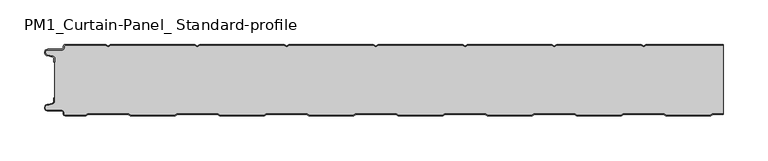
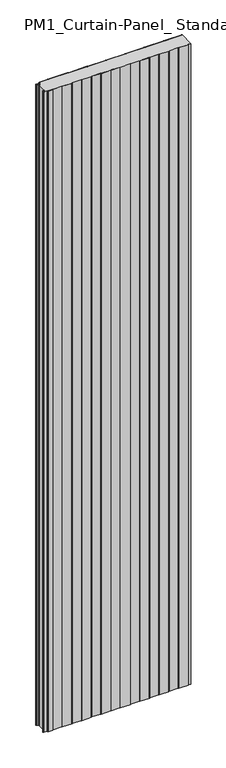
"""IFC4 building model written with IfcOpenShell, lengths in millimetres: plate geometry, PM1_Curtain-Panel_ Standard-profile : ACH_PM1_Acoustic-Sectioning-Panel_80M."""

import ifcopenshell
import ifcopenshell.guid

model = None  # the IFC model being written
_history = None  # IfcOwnerHistory: only IFC2X3 demands one
_inside = {}  # id of a spatial element -> (the spatial element, [elements in it])
_under = {}  # id of a project, library or spatial element -> (it, [spatial elements below it])
_declared = {}  # id of a project -> (the project, [libraries it declares])
_typed = {}  # id of a type object -> (the type object, [elements of that type])
_made_of = {}  # id of a material, layer set ... -> (it, [elements and type objects made of it])


def new_model(schema):
    """Start an empty IFC model of exactly this schema.

    Asked for "IFC4X3", IfcOpenShell would pick the latest addendum, in which some entities
    have other attributes; the version numbers below select the first issue.
    IFC2X3 requires an IfcOwnerHistory on every rooted entity: one is made here for all.
    """
    global model, _history
    if schema == "IFC4X3":
        model = ifcopenshell.file(schema_version=(4, 3, 0, 0))
    else:
        model = ifcopenshell.file(schema=schema)
    _inside.clear()
    _under.clear()
    _declared.clear()
    _typed.clear()
    _made_of.clear()
    _history = None
    if model.schema == "IFC2X3":
        org = make("IfcOrganization", Name="unknown")
        user = make(
            "IfcPersonAndOrganization",
            ThePerson=make("IfcPerson", FamilyName="unknown"),
            TheOrganization=org,
        )
        app = make(
            "IfcApplication",
            ApplicationDeveloper=org,
            Version="unknown",
            ApplicationFullName="unknown",
            ApplicationIdentifier="unknown",
        )
        _history = make(
            "IfcOwnerHistory",
            OwningUser=user,
            OwningApplication=app,
            ChangeAction="ADDED",
            CreationDate=0,
        )
    return model


def make(cls, **values):
    """One entity of the class cls with the attributes given. An attribute that is None is left unset."""
    return model.create_entity(
        cls, **{name: value for name, value in values.items() if value is not None}
    )


def rooted(cls, **values):
    """An entity with a GlobalId (a new one), such as an element, a storey or a relation."""
    return make(cls, GlobalId=ifcopenshell.guid.new(), OwnerHistory=_history, **values)


def si_unit(unit_type, name, prefix=None):
    """IfcSIUnit, for example si_unit("LENGTHUNIT", "METRE", prefix="MILLI")."""
    return make("IfcSIUnit", UnitType=unit_type, Prefix=prefix, Name=name)


def assignment(units):
    """IfcUnitAssignment: the units of a project."""
    return None if units is None else make("IfcUnitAssignment", Units=units)


def point(xyz):
    """IfcCartesianPoint."""
    return None if xyz is None else make("IfcCartesianPoint", Coordinates=xyz)


def direction(xyz):
    """IfcDirection."""
    return None if xyz is None else make("IfcDirection", DirectionRatios=xyz)


def frame(location, z_axis=None, x_axis=None):
    """IfcAxis2Placement3D, a coordinate frame: its origin and axes. An axis left out is left unset."""
    return make(
        "IfcAxis2Placement3D",
        Location=point(location),
        Axis=direction(z_axis),
        RefDirection=direction(x_axis),
    )


def frame_2d(location, x_axis=None):
    """IfcAxis2Placement2D, a coordinate frame in the plane: its origin and x axis."""
    return make(
        "IfcAxis2Placement2D", Location=point(location), RefDirection=direction(x_axis)
    )


def origin():
    """The frame at (0, 0, 0) with its axes left unset."""
    return frame((0.0, 0.0, 0.0))


def origin_with_axes():
    """The frame at (0, 0, 0) with the z axis (0, 0, 1) and the x axis (1, 0, 0) written out."""
    return frame((0.0, 0.0, 0.0), z_axis=(0.0, 0.0, 1.0), x_axis=(1.0, 0.0, 0.0))


def place(relative_to, where):
    """IfcLocalPlacement: puts the frame where relative to a parent placement (None: the world)."""
    return make(
        "IfcLocalPlacement", PlacementRelTo=relative_to, RelativePlacement=where
    )


def context(
    kind, dimensions, precision=None, world=None, true_north=None, identifier=None
):
    """IfcGeometricRepresentationContext, for example the 3D "Model" context."""
    return make(
        "IfcGeometricRepresentationContext",
        ContextIdentifier=identifier,
        ContextType=kind,
        CoordinateSpaceDimension=dimensions,
        Precision=precision,
        WorldCoordinateSystem=world,
        TrueNorth=true_north,
    )


def project(units=None, contexts=None):
    """IfcProject with its units and contexts."""
    return rooted(
        "IfcProject",
        Name="project",
        RepresentationContexts=contexts,
        UnitsInContext=assignment(units),
    )


def spatial(cls, under=None, at=None, **own):
    """A site, building, storey or space (cls), placed at a placement, below another one or the project."""
    s = rooted(cls, ObjectPlacement=at, **own)
    if under is not None:
        _under.setdefault(under.id(), (under, []))[1].append(s)
    return s


def polyline(points):
    """IfcPolyline through the points."""
    return make("IfcPolyline", Points=[point(p) for p in points])


def circle_curve(where, radius):
    """IfcCircle in the frame where."""
    return make("IfcCircle", Position=where, Radius=radius)


def trimmed(basis, trim1, trim2, sense, master):
    """IfcTrimmedCurve: the piece of a basis curve between two trims."""
    return make(
        "IfcTrimmedCurve",
        BasisCurve=basis,
        Trim1=trim1,
        Trim2=trim2,
        SenseAgreement=sense,
        MasterRepresentation=master,
    )


def segment(curve, same_sense, transition):
    """IfcCompositeCurveSegment."""
    return make(
        "IfcCompositeCurveSegment",
        Transition=transition,
        SameSense=same_sense,
        ParentCurve=curve,
    )


def composite_curve(segments, self_intersect=None):
    """IfcCompositeCurve: segments joined end to end."""
    return make("IfcCompositeCurve", Segments=segments, SelfIntersect=self_intersect)


def outline(outer, holes=None, kind="AREA"):
    """IfcArbitraryClosedProfileDef: a profile drawn as a closed curve; with holes, ...WithVoids."""
    if holes is None:
        return make("IfcArbitraryClosedProfileDef", ProfileType=kind, OuterCurve=outer)
    return make(
        "IfcArbitraryProfileDefWithVoids",
        ProfileType=kind,
        OuterCurve=outer,
        InnerCurves=holes,
    )


def extrude(swept, where, along, depth):
    """IfcExtrudedAreaSolid: the profile swept, set in the frame where, extruded along a direction by depth."""
    return make(
        "IfcExtrudedAreaSolid",
        SweptArea=swept,
        Position=where,
        ExtrudedDirection=direction(along),
        Depth=depth,
    )


def shape(context_of_items, identifier, shape_type, items):
    """IfcShapeRepresentation: the items that make up one representation, for example the "Body"."""
    return make(
        "IfcShapeRepresentation",
        ContextOfItems=context_of_items,
        RepresentationIdentifier=identifier,
        RepresentationType=shape_type,
        Items=items,
    )


def source(mapping_origin, context_of_items, identifier, shape_type, items):
    """IfcRepresentationMap: a shape defined once, which mapped items show again and again."""
    return make(
        "IfcRepresentationMap",
        MappingOrigin=mapping_origin,
        MappedRepresentation=shape(context_of_items, identifier, shape_type, items),
    )


def transform(
    local_origin,
    x_axis=None,
    y_axis=None,
    z_axis=None,
    scale=None,
    scale2=None,
    scale3=None,
    uniform=True,
):
    """IfcCartesianTransformationOperator3D, or its non-uniform kind. x_axis, y_axis, z_axis: its Axis1, 2, 3."""
    if uniform:
        return make(
            "IfcCartesianTransformationOperator3D",
            Axis1=direction(x_axis),
            Axis2=direction(y_axis),
            LocalOrigin=point(local_origin),
            Scale=scale,
            Axis3=direction(z_axis),
        )
    return make(
        "IfcCartesianTransformationOperator3DnonUniform",
        Axis1=direction(x_axis),
        Axis2=direction(y_axis),
        LocalOrigin=point(local_origin),
        Scale=scale,
        Axis3=direction(z_axis),
        Scale2=scale2,
        Scale3=scale3,
    )


def mapped(mapping_source, mapping_target):
    """IfcMappedItem: shows the shape of a source again, moved by a transform."""
    return make(
        "IfcMappedItem", MappingSource=mapping_source, MappingTarget=mapping_target
    )


def made_of(thing, what):
    """Note that an element or type object is made of a material, layer set ...; save() writes the relation."""
    if what is not None:
        _made_of.setdefault(what.id(), (what, []))[1].append(thing)
    return thing


def element(
    cls,
    number,
    at=None,
    inside=None,
    cuts=None,
    type_object=None,
    material=None,
    context=None,
    identifier="Body",
    shape_type=None,
    held_by="IfcProductDefinitionShape",
    body=None,
    shapes=None,
    **own,
):
    """One element of the class cls, such as IfcWall. Its Tag is "e" and its number.

    at: its placement. inside: the storey or other place that contains it. cuts: it is an
    opening in that element (IfcRelVoidsElement). A single representation is given by context,
    identifier, shape_type and body (its items); several are given by shapes. held_by: the class
    of the entity that holds the representations. save() writes the other relations.
    """
    e = rooted(cls, Tag="e%d" % number, ObjectPlacement=at, **own)
    if body is not None:
        shapes = [shape(context, identifier, shape_type, body)]
    if shapes is not None:
        e.Representation = make(held_by, Representations=shapes)
    if inside is not None:
        _inside.setdefault(inside.id(), (inside, []))[1].append(e)
    if cuts is not None:
        rooted(
            "IfcRelVoidsElement", RelatingBuildingElement=cuts, RelatedOpeningElement=e
        )
    if type_object is not None:
        _typed.setdefault(type_object.id(), (type_object, []))[1].append(e)
    return made_of(e, material)


def aggregate(whole, parts):
    """IfcRelAggregates: a whole, such as a stair, and the parts it consists of."""
    return rooted("IfcRelAggregates", RelatingObject=whole, RelatedObjects=parts)


def save(model, path):
    """Write the relations noted so far, then the file.

    IfcRelAggregates (storeys below a building ...), IfcRelContainedInSpatialStructure (elements
    in a storey), IfcRelDefinesByType, IfcRelAssociatesMaterial and IfcRelDeclares: one each for
    every whole, place, type object, material and project.
    """
    for whole, parts in _under.values():
        aggregate(whole, parts)
    for where, things in _inside.values():
        rooted(
            "IfcRelContainedInSpatialStructure",
            RelatedElements=things,
            RelatingStructure=where,
        )
    for kind, things in _typed.values():
        rooted("IfcRelDefinesByType", RelatedObjects=things, RelatingType=kind)
    for what, things in _made_of.values():
        rooted("IfcRelAssociatesMaterial", RelatedObjects=things, RelatingMaterial=what)
    for by, libraries in _declared.values():
        rooted("IfcRelDeclares", RelatingContext=by, RelatedDefinitions=libraries)
    model.write(path)


def pm1_curtain_panel_standard_profile_9475321e(model_context):
    return source(origin(), model_context, "Body", "SweptSolid", [
        extrude(outline(composite_curve([segment(trimmed(circle_curve(frame_2d((-377.0, -15.878557)), 2.0), [point((-375.0, -15.878557))], [point((-376.5500978, -13.9298169))], True, "CARTESIAN"), True, "CONTINUOUS"), segment(polyline([(-376.5500978, -13.9298169), (-382.7098239, -12.507732)]), True, "CONTINUOUS"), segment(trimmed(circle_curve(frame_2d((-381.9, -9.0)), 3.6), [point((-382.7098239, -12.507732))], [point((-381.9, -5.4))], False, "CARTESIAN"), True, "CONTINUOUS"), segment(polyline([(-381.9, -5.4), (-366.4, -5.4)]), True, "CONTINUOUS"), segment(trimmed(circle_curve(frame_2d((-366.4, -3.4)), 2.0), [point((-366.4, -5.4))], [point((-364.4, -3.4))], True, "CARTESIAN"), True, "CONTINUOUS"), segment(polyline([(-364.4, -3.4), (-364.4, -2.0)]), True, "CONTINUOUS"), segment(trimmed(circle_curve(frame_2d((-362.4, -2.0)), 2.0), [point((-364.4, -2.0))], [point((-362.4, 0.0))], False, "CARTESIAN"), True, "CONTINUOUS"), segment(polyline([(-362.4, 0.0), (-317.0999995, 0.0), (-314.4, -1.5588455), (-311.7000005, 0.0), (-217.0999995, 0.0), (-214.4, -1.5588455), (-211.7000005, 0.0), (-117.0999995, 0.0), (-114.4, -1.5588455), (-111.7000005, 0.0), (-17.0999995, 0.0), (-14.4, -1.5588455), (-11.7000005, 0.0), (82.9000005, 0.0), (85.6, -1.5588455), (88.2999995, 0.0), (182.9000005, 0.0), (185.6, -1.5588455), (188.2999995, 0.0), (282.9000005, 0.0), (285.6, -1.5588455), (288.2999995, 0.0), (375.0, 0.0), (375.0, -0.8), (288.5143588, -0.8), (285.6, -2.482606), (282.6856412, -0.8), (188.5143588, -0.8), (185.6, -2.482606), (182.6856412, -0.8), (88.5143588, -0.8), (85.6, -2.482606), (82.6856412, -0.8), (-11.4856412, -0.8), (-14.4, -2.482606), (-17.3143588, -0.8), (-111.4856412, -0.8), (-114.4, -2.482606), (-117.3143588, -0.8), (-211.4856412, -0.8), (-214.4, -2.482606), (-217.3143588, -0.8), (-311.4856412, -0.8), (-314.4, -2.482606), (-317.3143588, -0.8), (-362.4, -0.8)]), True, "CONTINUOUS"), segment(trimmed(circle_curve(frame_2d((-362.4, -2.0)), 1.2), [point((-362.4, -0.8))], [point((-363.6, -2.0))], True, "CARTESIAN"), True, "CONTINUOUS"), segment(polyline([(-363.6, -2.0), (-363.6, -3.4)]), True, "CONTINUOUS"), segment(trimmed(circle_curve(frame_2d((-366.4, -3.4)), 2.8), [point((-363.6, -3.4))], [point((-366.4, -6.2))], False, "CARTESIAN"), True, "CONTINUOUS"), segment(polyline([(-366.4, -6.2), (-381.9, -6.2)]), True, "CONTINUOUS"), segment(trimmed(circle_curve(frame_2d((-381.9, -9.0)), 2.8), [point((-381.9, -6.2))], [point((-382.529863, -11.7282362))], True, "CARTESIAN"), True, "CONTINUOUS"), segment(polyline([(-382.529863, -11.7282362), (-376.370137, -13.150321)]), True, "CONTINUOUS"), segment(trimmed(circle_curve(frame_2d((-377.0, -15.878557)), 2.8), [point((-376.370137, -13.150321))], [point((-374.2, -15.878557))], False, "CARTESIAN"), True, "CONTINUOUS"), segment(polyline([(-374.2, -15.878557), (-374.2, -20.0), (-375.0, -20.0), (-375.0, -15.878557)]), True, "CONTINUOUS")], self_intersect=False)), origin_with_axes(), (0.0, 0.0, 1.0), 3500.0),
        extrude(outline(composite_curve([segment(polyline([(-374.2, -64.121443), (-374.2, -15.8785573)]), True, "CONTINUOUS"), segment(trimmed(circle_curve(frame_2d((-377.0, -15.8785573)), 2.8), [point((-374.2, -15.8785573))], [point((-376.370137, -13.1503212))], True, "CARTESIAN"), True, "CONTINUOUS"), segment(polyline([(-376.370137, -13.1503212), (-382.5298631, -11.7282362)]), True, "CONTINUOUS"), segment(trimmed(circle_curve(frame_2d((-381.9, -9.0)), 2.8), [point((-382.5298631, -11.7282362))], [point((-381.9, -6.2))], False, "CARTESIAN"), True, "CONTINUOUS"), segment(polyline([(-381.9, -6.2), (-366.4000001, -6.2)]), True, "CONTINUOUS"), segment(trimmed(circle_curve(frame_2d((-366.4000001, -3.4)), 2.8), [point((-366.4000001, -6.2))], [point((-363.6000001, -3.4))], True, "CARTESIAN"), True, "CONTINUOUS"), segment(polyline([(-363.6000001, -3.4), (-363.6000001, -2.0)]), True, "CONTINUOUS"), segment(trimmed(circle_curve(frame_2d((-362.4000001, -2.0)), 1.2), [point((-363.6000001, -2.0))], [point((-362.4000001, -0.8))], False, "CARTESIAN"), True, "CONTINUOUS"), segment(polyline([(-362.4000001, -0.8), (-317.3143589, -0.8), (-314.4000001, -2.482606), (-311.4856412, -0.8), (-217.3143589, -0.8), (-214.4000001, -2.482606), (-211.4856412, -0.8), (-117.3143589, -0.8), (-114.4000001, -2.482606), (-111.4856412, -0.8), (-17.3143589, -0.8), (-14.4000001, -2.482606), (-11.4856412, -0.8), (82.6856411, -0.8), (85.5999999, -2.482606), (88.5143588, -0.8), (182.6856411, -0.8), (185.5999999, -2.482606), (188.5143588, -0.8), (282.6856411, -0.8), (285.5999999, -2.482606), (288.5143588, -0.8), (375.0, -0.8), (375.0, -77.7), (362.9837184, -77.7), (360.3856408, -79.2), (310.8105122, -79.2), (308.2124346, -77.7), (262.9837184, -77.7), (260.3856408, -79.2), (210.8105122, -79.2), (208.2124346, -77.7), (162.9837184, -77.7), (160.3856408, -79.2), (110.8105122, -79.2), (108.2124346, -77.7), (62.9837184, -77.7), (60.3856408, -79.2), (10.8105122, -79.2), (8.2124346, -77.7), (-37.0162816, -77.7), (-39.6143592, -79.2), (-89.1894878, -79.2), (-91.7875654, -77.7), (-137.0162816, -77.7), (-139.6143592, -79.2), (-189.1894878, -79.2), (-191.7875654, -77.7), (-237.0162816, -77.7), (-239.6143592, -79.2), (-289.1894878, -79.2), (-291.7875654, -77.7), (-337.0162816, -77.7), (-339.6143592, -79.2), (-362.4, -79.2)]), True, "CONTINUOUS"), segment(trimmed(circle_curve(frame_2d((-362.4, -78.0)), 1.2), [point((-362.4, -79.2))], [point((-363.6, -78.0))], False, "CARTESIAN"), True, "CONTINUOUS"), segment(polyline([(-363.6, -78.0), (-363.6, -76.5999998)]), True, "CONTINUOUS"), segment(trimmed(circle_curve(frame_2d((-366.4, -76.5999998)), 2.8), [point((-363.6, -76.5999998))], [point((-366.4, -73.7999998))], True, "CARTESIAN"), True, "CONTINUOUS"), segment(polyline([(-366.4, -73.7999998), (-381.9, -73.7999998)]), True, "CONTINUOUS"), segment(trimmed(circle_curve(frame_2d((-381.9, -71.0)), 2.7999998), [point((-381.9, -73.7999998))], [point((-382.529863, -68.271764))], False, "CARTESIAN"), True, "CONTINUOUS"), segment(polyline([(-382.529863, -68.271764), (-376.370137, -66.8496792)]), True, "CONTINUOUS"), segment(trimmed(circle_curve(frame_2d((-377.0, -64.121443)), 2.8), [point((-376.370137, -66.8496792))], [point((-374.2, -64.121443))], True, "CARTESIAN"), True, "CONTINUOUS")], self_intersect=False)), origin_with_axes(), (0.0, 0.0, 1.0), 3500.0),
        extrude(outline(composite_curve([segment(trimmed(circle_curve(frame_2d((-362.4, -78.0)), 2.0), [point((-362.4, -80.0))], [point((-364.4, -78.0))], False, "CARTESIAN"), True, "CONTINUOUS"), segment(polyline([(-364.4, -78.0), (-364.4, -76.6)]), True, "CONTINUOUS"), segment(trimmed(circle_curve(frame_2d((-366.4, -76.6)), 2.0), [point((-364.4, -76.6))], [point((-366.4, -74.6))], True, "CARTESIAN"), True, "CONTINUOUS"), segment(polyline([(-366.4, -74.6), (-381.9, -74.6)]), True, "CONTINUOUS"), segment(trimmed(circle_curve(frame_2d((-381.9, -71.0)), 3.6), [point((-381.9, -74.6))], [point((-382.7098239, -67.4922678))], False, "CARTESIAN"), True, "CONTINUOUS"), segment(polyline([(-382.7098239, -67.4922678), (-376.5500979, -66.070183)]), True, "CONTINUOUS"), segment(trimmed(circle_curve(frame_2d((-377.0, -64.121443)), 2.0), [point((-376.5500979, -66.070183))], [point((-375.0, -64.121443))], True, "CARTESIAN"), True, "CONTINUOUS"), segment(polyline([(-375.0, -64.121443), (-375.0, -60.0), (-374.2, -60.0), (-374.2, -64.121443)]), True, "CONTINUOUS"), segment(trimmed(circle_curve(frame_2d((-377.0, -64.121443)), 2.8), [point((-374.2, -64.121443))], [point((-376.370137, -66.8496792))], False, "CARTESIAN"), True, "CONTINUOUS"), segment(polyline([(-376.370137, -66.8496792), (-382.529863, -68.271764)]), True, "CONTINUOUS"), segment(trimmed(circle_curve(frame_2d((-381.9, -71.0)), 2.8), [point((-382.529863, -68.271764))], [point((-381.9, -73.8))], True, "CARTESIAN"), True, "CONTINUOUS"), segment(polyline([(-381.9, -73.8), (-366.4, -73.8)]), True, "CONTINUOUS"), segment(trimmed(circle_curve(frame_2d((-366.4, -76.6)), 2.8), [point((-366.4, -73.8))], [point((-363.6, -76.6))], False, "CARTESIAN"), True, "CONTINUOUS"), segment(polyline([(-363.6, -76.6), (-363.6, -78.0)]), True, "CONTINUOUS"), segment(trimmed(circle_curve(frame_2d((-362.4, -78.0)), 1.2), [point((-363.6, -78.0))], [point((-362.4, -79.2))], True, "CARTESIAN"), True, "CONTINUOUS"), segment(polyline([(-362.4, -79.2), (-339.6143592, -79.2), (-337.0162816, -77.7), (-291.7875654, -77.7), (-289.1894878, -79.2), (-239.6143592, -79.2), (-237.0162816, -77.7), (-191.7875654, -77.7), (-189.1894878, -79.2), (-139.6143592, -79.2), (-137.0162816, -77.7), (-91.7875654, -77.7), (-89.1894878, -79.2), (-39.6143592, -79.2), (-37.0162816, -77.7), (8.2124346, -77.7), (10.8105122, -79.2), (60.3856408, -79.2), (62.9837184, -77.7), (108.2124346, -77.7), (110.8105122, -79.2), (160.3856408, -79.2), (162.9837184, -77.7), (208.2124346, -77.7), (210.8105122, -79.2), (260.3856408, -79.2), (262.9837184, -77.7), (308.2124346, -77.7), (310.8105122, -79.2), (360.3856408, -79.2), (362.9837184, -77.7), (375.0, -77.7), (375.0, -78.5), (363.1980777, -78.5), (360.6000001, -80.0), (310.5961529, -80.0), (307.9980753, -78.5), (263.1980777, -78.5), (260.6000001, -80.0), (210.5961529, -80.0), (207.9980753, -78.5), (163.1980777, -78.5), (160.6000001, -80.0), (110.5961529, -80.0), (107.9980753, -78.5), (63.1980777, -78.5), (60.6000001, -80.0), (10.5961529, -80.0), (7.9980753, -78.5), (-36.8019223, -78.5), (-39.3999999, -80.0), (-89.4038471, -80.0), (-92.0019247, -78.5), (-136.8019223, -78.5), (-139.3999999, -80.0), (-189.4038471, -80.0), (-192.0019247, -78.5), (-236.8019223, -78.5), (-239.3999999, -80.0), (-289.4038471, -80.0), (-292.0019247, -78.5), (-336.8019223, -78.5), (-339.3999999, -80.0), (-362.4, -80.0)]), True, "CONTINUOUS")], self_intersect=False)), origin_with_axes(), (0.0, 0.0, 1.0), 3500.0),
    ])


if __name__ == "__main__":
    model = new_model("IFC4")
    model_context = context("Model", 3, world=origin())
    ifc_project = project(units=[si_unit("LENGTHUNIT", "METRE", prefix="MILLI")], contexts=[model_context])
    site = spatial("IfcSite", under=ifc_project)
    building = spatial("IfcBuilding", under=site)
    placement = place(None, origin())
    pm1_curtain_panel_standard_profile_shape = pm1_curtain_panel_standard_profile_9475321e(model_context)
    element("IfcPlate", 1, ObjectType="PM1_Curtain-Panel_ Standard-profile : ACH_PM1_Acoustic-Sectioning-Panel_80M", at=placement, inside=building, context=model_context, shape_type="MappedRepresentation", body=[
        mapped(pm1_curtain_panel_standard_profile_shape, transform((0.0, 0.0, 0.0), x_axis=(1.0, 0.0, 0.0), y_axis=(0.0, 1.0, 0.0), z_axis=(0.0, 0.0, 1.0))),
    ])
    save(model, "model.ifc")
